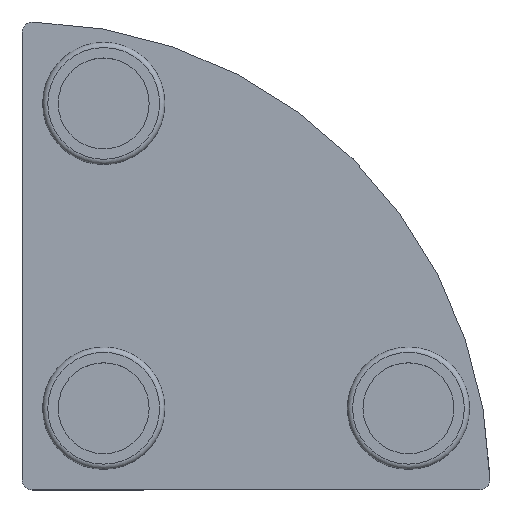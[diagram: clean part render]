
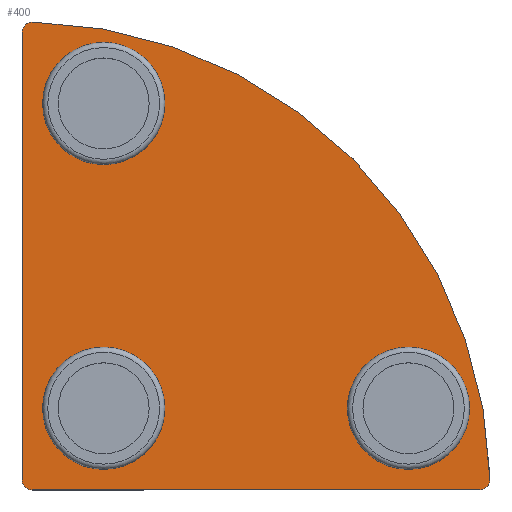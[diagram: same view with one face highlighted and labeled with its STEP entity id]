
A CAD part, top view. The second image highlights one B-rep face of the part: STEP entity #400.
In plain terms, the highlighted planar face has unit normal (0, 0, 1).
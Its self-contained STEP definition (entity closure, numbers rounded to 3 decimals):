
#101=CARTESIAN_POINT('',(-8.775,-14.65,3.));
#102=VERTEX_POINT('',#101);
#103=CARTESIAN_POINT('',(-14.65,-14.65,3.));
#104=DIRECTION('',(0.0,0.0,-1.0));
#105=DIRECTION('',(-1.0,0.0,0.0));
#106=AXIS2_PLACEMENT_3D('',#103,#104,#105);
#107=CIRCLE('',#106,5.875);
#108=EDGE_CURVE('',#102,#102,#107,.T.);
#169=CARTESIAN_POINT('',(20.525,-14.65,3.));
#170=VERTEX_POINT('',#169);
#171=CARTESIAN_POINT('',(14.65,-14.65,3.));
#172=DIRECTION('',(0.0,0.0,-1.0));
#173=DIRECTION('',(-1.0,0.0,0.0));
#174=AXIS2_PLACEMENT_3D('',#171,#172,#173);
#175=CIRCLE('',#174,5.875);
#176=EDGE_CURVE('',#170,#170,#175,.T.);
#237=CARTESIAN_POINT('',(-8.775,14.65,3.));
#238=VERTEX_POINT('',#237);
#239=CARTESIAN_POINT('',(-14.65,14.65,3.));
#240=DIRECTION('',(0.0,0.0,-1.0));
#241=DIRECTION('',(-1.0,0.0,0.0));
#242=AXIS2_PLACEMENT_3D('',#239,#240,#241);
#243=CIRCLE('',#242,5.875);
#244=EDGE_CURVE('',#238,#238,#243,.T.);
#332=CARTESIAN_POINT('',(-3.866,-3.866,3.));
#333=DIRECTION('',(0.0,0.0,1.0));
#334=DIRECTION('',(1.0,0.0,0.0));
#335=AXIS2_PLACEMENT_3D('',#332,#333,#334);
#336=PLANE('',#335);
#337=CARTESIAN_POINT('',(22.488,-21.477,3.));
#338=VERTEX_POINT('',#337);
#339=CARTESIAN_POINT('',(21.489,-22.5,3.));
#340=VERTEX_POINT('',#339);
#341=CARTESIAN_POINT('',(21.489,-21.5,3.));
#342=DIRECTION('',(0.0,0.0,-1.0));
#343=DIRECTION('',(0.715,-0.699,0.0));
#344=AXIS2_PLACEMENT_3D('',#341,#342,#343);
#345=CIRCLE('',#344,1.);
#346=EDGE_CURVE('',#338,#340,#345,.T.);
#347=ORIENTED_EDGE('',*,*,#346,.F.);
#348=CARTESIAN_POINT('',(-21.477,22.488,3.));
#349=VERTEX_POINT('',#348);
#350=CARTESIAN_POINT('',(-22.5,-22.5,3.));
#351=DIRECTION('',(0.0,0.0,-1.0));
#352=DIRECTION('',(-1.0,0.0,0.0));
#353=AXIS2_PLACEMENT_3D('',#350,#351,#352);
#354=CIRCLE('',#353,45.0);
#355=EDGE_CURVE('',#349,#338,#354,.T.);
#356=ORIENTED_EDGE('',*,*,#355,.F.);
#357=CARTESIAN_POINT('',(-22.5,21.489,3.));
#358=VERTEX_POINT('',#357);
#359=CARTESIAN_POINT('',(-21.5,21.489,3.));
#360=DIRECTION('',(0.0,0.0,-1.0));
#361=DIRECTION('',(-0.699,0.715,0.0));
#362=AXIS2_PLACEMENT_3D('',#359,#360,#361);
#363=CIRCLE('',#362,1.0);
#364=EDGE_CURVE('',#358,#349,#363,.T.);
#365=ORIENTED_EDGE('',*,*,#364,.F.);
#366=CARTESIAN_POINT('',(-22.5,-21.5,3.));
#367=VERTEX_POINT('',#366);
#368=CARTESIAN_POINT('',(-22.5,-21.5,3.));
#369=DIRECTION('',(0.0,1.0,0.0));
#370=VECTOR('',#369,42.989);
#371=LINE('',#368,#370);
#372=EDGE_CURVE('',#367,#358,#371,.T.);
#373=ORIENTED_EDGE('',*,*,#372,.F.);
#374=CARTESIAN_POINT('',(-21.5,-22.5,3.));
#375=VERTEX_POINT('',#374);
#376=CARTESIAN_POINT('',(-21.5,-21.5,3.));
#377=DIRECTION('',(0.0,0.0,-1.0));
#378=DIRECTION('',(-0.707,-0.707,0.0));
#379=AXIS2_PLACEMENT_3D('',#376,#377,#378);
#380=CIRCLE('',#379,1.);
#381=EDGE_CURVE('',#375,#367,#380,.T.);
#382=ORIENTED_EDGE('',*,*,#381,.F.);
#383=CARTESIAN_POINT('',(21.489,-22.5,3.));
#384=DIRECTION('',(-1.0,0.0,0.0));
#385=VECTOR('',#384,42.989);
#386=LINE('',#383,#385);
#387=EDGE_CURVE('',#340,#375,#386,.T.);
#388=ORIENTED_EDGE('',*,*,#387,.F.);
#389=EDGE_LOOP('',(#347,#356,#365,#373,#382,#388));
#390=FACE_OUTER_BOUND('',#389,.T.);
#391=ORIENTED_EDGE('',*,*,#108,.T.);
#392=EDGE_LOOP('',(#391));
#393=FACE_BOUND('',#392,.T.);
#394=ORIENTED_EDGE('',*,*,#176,.T.);
#395=EDGE_LOOP('',(#394));
#396=FACE_BOUND('',#395,.T.);
#397=ORIENTED_EDGE('',*,*,#244,.T.);
#398=EDGE_LOOP('',(#397));
#399=FACE_BOUND('',#398,.T.);
#400=ADVANCED_FACE('',(#390,#393,#396,#399),#336,.T.);
